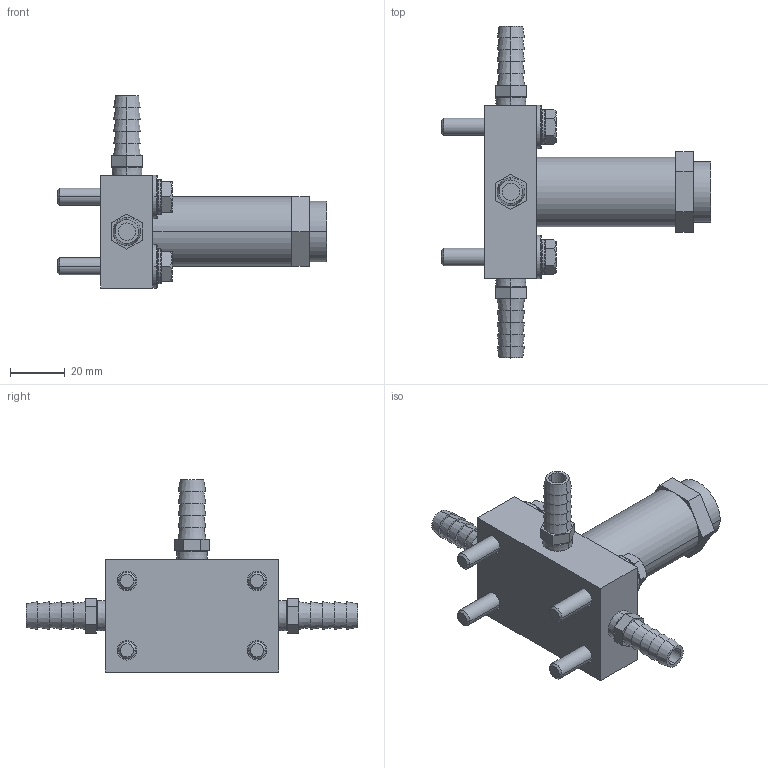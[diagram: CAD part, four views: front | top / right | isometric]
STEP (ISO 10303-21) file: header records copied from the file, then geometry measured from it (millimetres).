
FILE_DESCRIPTION((''),'2;1');
FILE_NAME('XL2_ASM','2017-08-24T',('jennifer.elliott'),('CenterLine (Windsor) Ltd - Automation Components Division'),'PRO/ENGINEER BY PARAMETRIC TECHNOLOGY CORPORATION, 2015030','PRO/ENGINEER BY PARAMETRIC TECHNOLOGY CORPORATION, 2015030','');
FILE_SCHEMA(('AUTOMOTIVE_DESIGN { 1 0 10303 214 1 1 1 1 }'));
Length unit declared in the file: inch
Products named in the file (17): PRT1564; PRT1565; PRT1566; PRT1567; PRT1568; PRT1569; PRT1570; PRT1571; PRT1572; PRT1573; ASM0021_ASM; PRT1574; PRT1575; TMP_DWG-3DSOLID_91; TMP_DWG-3DSOLID_92; TMP_DWG-3DSOLID_93; XL2_ASM
Assembly tree (16 placements, depth 3):
  XL2_ASM
    PRT1564
    PRT1565
    PRT1566
    PRT1567
    PRT1568
    PRT1569
    ASM0021_ASM
      PRT1570
      PRT1571
      PRT1572
      PRT1573
    PRT1574
    PRT1575
    TMP_DWG-3DSOLID_91
    TMP_DWG-3DSOLID_92
    TMP_DWG-3DSOLID_93
Bounding box: 98.42 x 121.41 x 70.23 mm (x, y, z)
Volume: 90545.5 mm3; surface area: 30456.6 mm2
Topology: 15 solids, 15 shells, 263 faces, 604 edges, 396 vertices
Faces by surface type: plane 119, cone 68, cylinder 52, torus 24
Entity records: 8919 total; most frequent: CARTESIAN_POINT 1798, DIRECTION 1392, ORIENTED_EDGE 1208, EDGE_CURVE 604, AXIS2_PLACEMENT_3D 576, VERTEX_POINT 396, EDGE_LOOP 310, CIRCLE 276
